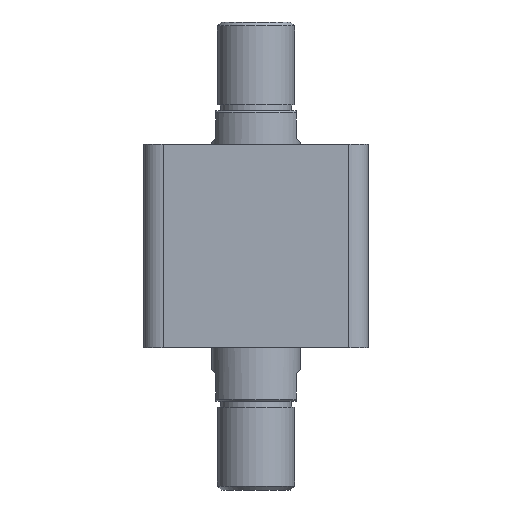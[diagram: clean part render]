
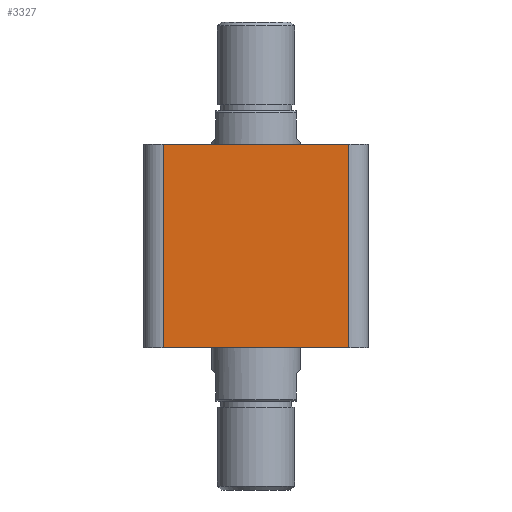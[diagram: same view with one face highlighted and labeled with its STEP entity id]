
A CAD part, front view. The second image highlights one B-rep face of the part: STEP entity #3327.
In plain terms, the highlighted planar face has unit normal (0, -1, 0).
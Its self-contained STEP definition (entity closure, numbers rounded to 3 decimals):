
#434 = DIRECTION ( 'NONE',  ( 0., 0., -1. ) ) ;
#451 = CARTESIAN_POINT ( 'NONE',  ( -57., -57., 103. ) ) ;
#452 = CARTESIAN_POINT ( 'NONE',  ( -47., -57., 103. ) ) ;
#457 = DIRECTION ( 'NONE',  ( 1., 0., 0. ) ) ;
#458 = CARTESIAN_POINT ( 'NONE',  ( 47., -57., 103. ) ) ;
#459 = DIRECTION ( 'NONE',  ( 0., 0., 1. ) ) ;
#460 = CARTESIAN_POINT ( 'NONE',  ( -57., -57., 0. ) ) ;
#461 = DIRECTION ( 'NONE',  ( 1., 0., 0. ) ) ;
#659 = VERTEX_POINT ( 'NONE', #940 ) ;
#697 = VERTEX_POINT ( 'NONE', #956 ) ;
#698 = VERTEX_POINT ( 'NONE', #955 ) ;
#700 = VERTEX_POINT ( 'NONE', #950 ) ;
#740 = ORIENTED_EDGE ( 'NONE', *, *, #2280, .T. ) ;
#742 = ORIENTED_EDGE ( 'NONE', *, *, #2279, .F. ) ;
#762 = ORIENTED_EDGE ( 'NONE', *, *, #2278, .T. ) ;
#769 = ORIENTED_EDGE ( 'NONE', *, *, #2281, .T. ) ;
#940 = CARTESIAN_POINT ( 'NONE',  ( -47., -57., 0. ) ) ;
#950 = CARTESIAN_POINT ( 'NONE',  ( 47., -57., 0. ) ) ;
#955 = CARTESIAN_POINT ( 'NONE',  ( -47., -57., 103. ) ) ;
#956 = CARTESIAN_POINT ( 'NONE',  ( 47., -57., 103. ) ) ;
#1218 = CARTESIAN_POINT ( 'NONE',  ( -57., -57., 103. ) ) ;
#1220 = PLANE ( 'NONE',  #2466 ) ;
#1222 = DIRECTION ( 'NONE',  ( 0., 1., 0. ) ) ;
#1223 = DIRECTION ( 'NONE',  ( 0., 0., 1. ) ) ;
#1759 = EDGE_LOOP ( 'NONE', ( #769, #740, #742, #762 ) ) ;
#2089 = LINE ( 'NONE', #452, #2092 ) ;
#2090 = LINE ( 'NONE', #451, #2094 ) ;
#2092 = VECTOR ( 'NONE', #434, 1000. ) ;
#2093 = LINE ( 'NONE', #458, #2096 ) ;
#2094 = VECTOR ( 'NONE', #457, 1000. ) ;
#2095 = LINE ( 'NONE', #460, #2098 ) ;
#2096 = VECTOR ( 'NONE', #459, 1000. ) ;
#2098 = VECTOR ( 'NONE', #461, 1000. ) ;
#2278 = EDGE_CURVE ( 'NONE', #698, #659, #2089, .T. ) ;
#2279 = EDGE_CURVE ( 'NONE', #698, #697, #2090, .T. ) ;
#2280 = EDGE_CURVE ( 'NONE', #700, #697, #2093, .T. ) ;
#2281 = EDGE_CURVE ( 'NONE', #659, #700, #2095, .T. ) ;
#2466 = AXIS2_PLACEMENT_3D ( 'NONE', #1218, #1222, #1223 ) ;
#2871 = FACE_OUTER_BOUND ( 'NONE', #1759, .T. ) ;
#3327 = ADVANCED_FACE ( 'NONE', ( #2871 ), #1220, .F. ) ;
